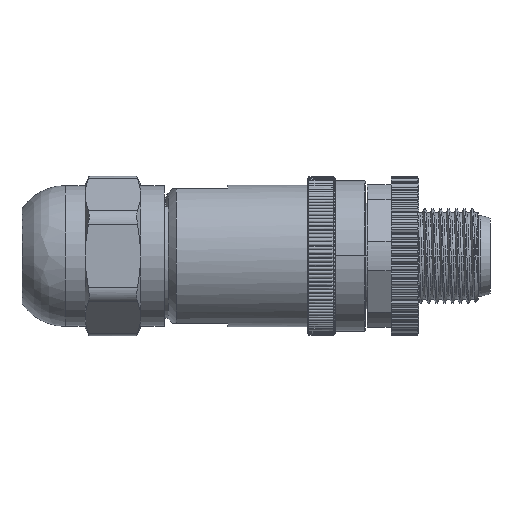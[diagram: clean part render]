
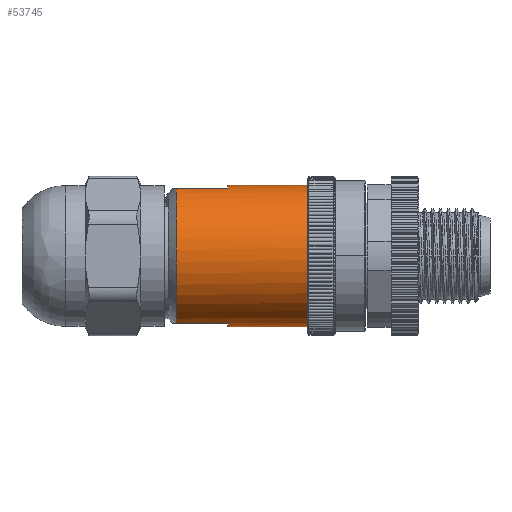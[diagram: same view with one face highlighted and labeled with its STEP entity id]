
A CAD part, left-side view. The second image highlights one B-rep face of the part: STEP entity #53745.
In plain terms, the highlighted cylindrical face has radius 8.95 mm (diameter 17.9 mm), a partial arc.
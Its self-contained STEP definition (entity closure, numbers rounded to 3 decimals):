
#11325=CARTESIAN_POINT('',(0.,4.868,-8.95));
#11327=CARTESIAN_POINT('',(0.,4.557,-8.95));
#12313=CARTESIAN_POINT('',(0.,4.868,-8.95));
#12314=CARTESIAN_POINT('',(-0.268,4.871,-8.95));
#12315=CARTESIAN_POINT('',(-0.805,4.879,
-8.926));
#12316=CARTESIAN_POINT('',(-1.604,4.889,
-8.817));
#12317=CARTESIAN_POINT('',(-2.128,4.896,
-8.698));
#12318=CARTESIAN_POINT('',(-2.386,4.9,-8.626));
#12320=CARTESIAN_POINT('',(0.,4.9,0.));
#12321=DIRECTION('',(0.,-1.,0.));
#12322=DIRECTION('',(-0.267,0.,-0.964));
#12323=AXIS2_PLACEMENT_3D('',#12320,#12321,#12322);
#12325=DIRECTION('',(0.,-1.,0.));
#12326=VECTOR('',#12325,10.1);
#12327=CARTESIAN_POINT('',(0.,15.,-8.95));
#12328=LINE('',#12327,#12326);
#12329=DIRECTION('',(0.,-1.,0.));
#12330=VECTOR('',#12329,6.5);
#12331=CARTESIAN_POINT('',(-2.802,21.5,
-8.5));
#12332=LINE('',#12331,#12330);
#12333=DIRECTION('',(0.,1.,0.));
#12334=VECTOR('',#12333,6.5);
#12335=CARTESIAN_POINT('',(-2.802,15.,8.5));
#12336=LINE('',#12335,#12334);
#12337=DIRECTION('',(0.,-1.,0.));
#12338=VECTOR('',#12337,10.1);
#12339=CARTESIAN_POINT('',(0.,15.,8.95));
#12340=LINE('',#12339,#12338);
#12341=CARTESIAN_POINT('',(0.,4.9,0.));
#12342=DIRECTION('',(0.,-1.,0.));
#12343=DIRECTION('',(0.,0.,1.));
#12344=AXIS2_PLACEMENT_3D('',#12341,#12342,#12343);
#12346=CARTESIAN_POINT('',(-2.386,4.9,8.626));
#12347=CARTESIAN_POINT('',(-2.878,4.893,
8.49));
#12348=CARTESIAN_POINT('',(-3.833,4.88,
8.135));
#12349=CARTESIAN_POINT('',(-5.137,4.86,
7.38));
#12350=CARTESIAN_POINT('',(-6.296,4.84,
6.421));
#12351=CARTESIAN_POINT('',(-7.295,4.819,
5.261));
#12352=CARTESIAN_POINT('',(-8.079,4.799,
3.949));
#12353=CARTESIAN_POINT('',(-8.623,4.779,
2.546));
#12354=CARTESIAN_POINT('',(-8.928,4.759,
1.075));
#12355=CARTESIAN_POINT('',(-8.982,4.739,
-0.458));
#12356=CARTESIAN_POINT('',(-8.774,4.718,
-1.966));
#12357=CARTESIAN_POINT('',(-8.327,4.698,
-3.394));
#12358=CARTESIAN_POINT('',(-7.638,4.678,
-4.748));
#12359=CARTESIAN_POINT('',(-6.72,4.658,
-5.977));
#12360=CARTESIAN_POINT('',(-5.616,4.638,
-7.022));
#12361=CARTESIAN_POINT('',(-4.379,4.618,
-7.854));
#12362=CARTESIAN_POINT('',(-2.985,4.598,
-8.484));
#12363=CARTESIAN_POINT('',(-1.501,4.577,
-8.867));
#12364=CARTESIAN_POINT('',(-0.499,4.564,-8.95));
#12365=CARTESIAN_POINT('',(0.,4.557,-8.95));
#12367=DIRECTION('',(0.,-1.,0.));
#12368=VECTOR('',#12367,0.311);
#12369=CARTESIAN_POINT('',(0.,4.868,-8.95));
#12370=LINE('',#12369,#12368);
#12423=CARTESIAN_POINT('',(0.,15.,0.));
#12424=DIRECTION('',(0.,1.,0.));
#12425=DIRECTION('',(0.,0.,-1.));
#12426=AXIS2_PLACEMENT_3D('',#12423,#12424,#12425);
#12479=CARTESIAN_POINT('',(0.,21.5,0.));
#12480=DIRECTION('',(0.,1.,0.));
#12481=DIRECTION('',(-0.313,0.,-0.95));
#12482=AXIS2_PLACEMENT_3D('',#12479,#12480,#12481);
#31832=CARTESIAN_POINT('',(0.,15.,0.));
#31833=DIRECTION('',(0.,1.,0.));
#31834=DIRECTION('',(-0.313,0.,0.95));
#31835=AXIS2_PLACEMENT_3D('',#31832,#31833,#31834);
#39925=CARTESIAN_POINT('',(-2.802,15.,-8.5));
#39927=VERTEX_POINT('',#39925);
#39928=CARTESIAN_POINT('',(-2.802,15.,8.5));
#39930=VERTEX_POINT('',#39928);
#40088=CARTESIAN_POINT('',(0.,15.,-8.95));
#40089=VERTEX_POINT('',#40088);
#40090=CARTESIAN_POINT('',(0.,15.,8.95));
#40091=VERTEX_POINT('',#40090);
#40092=CARTESIAN_POINT('',(-2.802,21.5,
-8.5));
#40093=VERTEX_POINT('',#40092);
#40094=CARTESIAN_POINT('',(-2.802,21.5,
8.5));
#40095=VERTEX_POINT('',#40094);
#43998=VERTEX_POINT('',#11325);
#43999=VERTEX_POINT('',#11327);
#44001=CARTESIAN_POINT('',(0.,4.9,-8.95));
#44002=CARTESIAN_POINT('',(0.,4.9,8.95));
#44003=VERTEX_POINT('',#44001);
#44004=VERTEX_POINT('',#44002);
#44005=VERTEX_POINT('',#12318);
#44007=VERTEX_POINT('',#12346);
#53720=CARTESIAN_POINT('',(0.,33.5,0.));
#53721=DIRECTION('',(0.,-1.,0.));
#53722=DIRECTION('',(0.,0.,-1.));
#53723=AXIS2_PLACEMENT_3D('',#53720,#53721,#53722);
#53724=CYLINDRICAL_SURFACE('',#53723,8.95);
#53725=ORIENTED_EDGE('',*,*,#53715,.T.);
#53726=ORIENTED_EDGE('',*,*,#51478,.T.);
#53727=ORIENTED_EDGE('',*,*,#52850,.F.);
#53729=ORIENTED_EDGE('',*,*,#53728,.T.);
#53731=ORIENTED_EDGE('',*,*,#53730,.F.);
#53733=ORIENTED_EDGE('',*,*,#53732,.T.);
#53735=ORIENTED_EDGE('',*,*,#53734,.F.);
#53737=ORIENTED_EDGE('',*,*,#53736,.T.);
#53738=ORIENTED_EDGE('',*,*,#52838,.T.);
#53739=ORIENTED_EDGE('',*,*,#51486,.T.);
#53741=ORIENTED_EDGE('',*,*,#53740,.T.);
#53742=ORIENTED_EDGE('',*,*,#52807,.F.);
#53743=EDGE_LOOP('',(#53725,#53726,#53727,#53729,#53731,#53733,#53735,#53737,
#53738,#53739,#53741,#53742));
#53744=FACE_OUTER_BOUND('',#53743,.F.);
#53745=ADVANCED_FACE('',(#53744),#53724,.T.);
#12319=B_SPLINE_CURVE_WITH_KNOTS('',3,(#12313,#12314,#12315,#12316,#12317,
#12318),.UNSPECIFIED.,.F.,.F.,(4,1,1,4),(0.,0.333,
0.667,1.),.UNSPECIFIED.);
#12324=CIRCLE('',#12323,8.95);
#12345=CIRCLE('',#12344,8.95);
#12366=B_SPLINE_CURVE_WITH_KNOTS('',3,(#12346,#12347,#12348,#12349,#12350,
#12351,#12352,#12353,#12354,#12355,#12356,#12357,#12358,#12359,#12360,#12361,
#12362,#12363,#12364,#12365),.UNSPECIFIED.,.F.,.F.,(4,1,1,1,1,1,1,1,1,1,1,1,1,1,
1,1,1,4),(0.,0.059,0.118,0.176,
0.235,0.294,0.353,0.412,
0.471,0.529,0.588,0.647,
0.706,0.765,0.824,0.882,
0.941,1.),.UNSPECIFIED.);
#12427=CIRCLE('',#12426,8.95);
#12483=CIRCLE('',#12482,8.95);
#31836=CIRCLE('',#31835,8.95);
#51478=EDGE_CURVE('',#44005,#44003,#12324,.T.);
#51486=EDGE_CURVE('',#44004,#44007,#12345,.T.);
#52807=EDGE_CURVE('',#43998,#43999,#12370,.T.);
#52838=EDGE_CURVE('',#40091,#44004,#12340,.T.);
#52850=EDGE_CURVE('',#40089,#44003,#12328,.T.);
#53715=EDGE_CURVE('',#43998,#44005,#12319,.T.);
#53728=EDGE_CURVE('',#40089,#39927,#12427,.T.);
#53730=EDGE_CURVE('',#40093,#39927,#12332,.T.);
#53732=EDGE_CURVE('',#40093,#40095,#12483,.T.);
#53734=EDGE_CURVE('',#39930,#40095,#12336,.T.);
#53736=EDGE_CURVE('',#39930,#40091,#31836,.T.);
#53740=EDGE_CURVE('',#44007,#43999,#12366,.T.);
